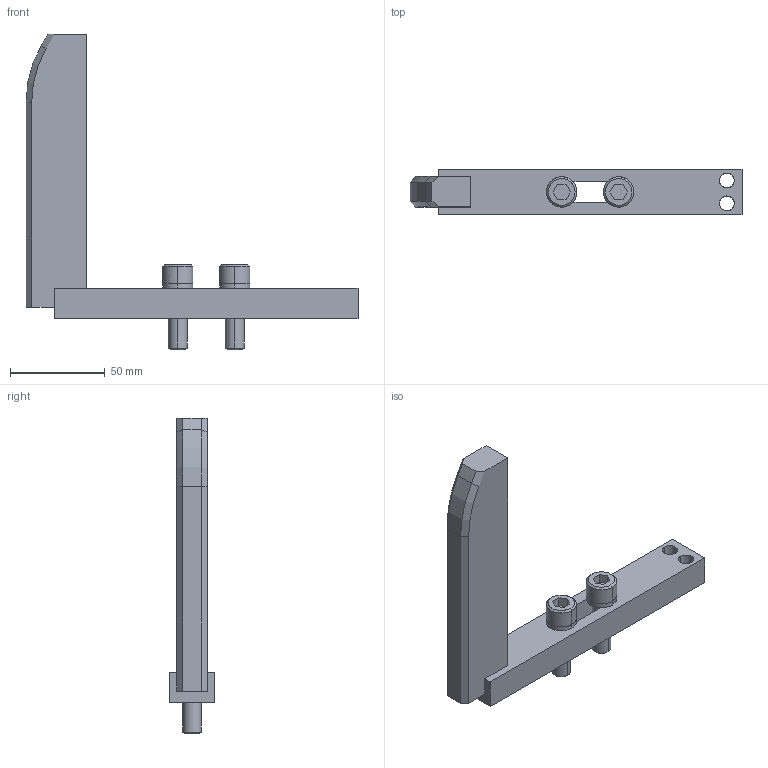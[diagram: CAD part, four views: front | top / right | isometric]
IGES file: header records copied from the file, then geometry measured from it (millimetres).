
Global section: file name: E:\UnigraphicsGraphicData\MISUMI_PRESS-PARTS\IGES\3d_ngnx-150-20-a160-b65-m10_01567_r00.igs; native system: NX V5.0; preprocessor: UGS NX IGES V5.0; author: MISUMI; date: 20110105.162104; units: millimetre
Bounding box: 175 x 24 x 166.5 mm (x, y, z)
Surface area: 34634 mm2 (no closed solid volume)
Topology: 0 solids, 0 shells, 100 faces, 630 edges, 630 vertices
Faces by surface type: bspline 100
